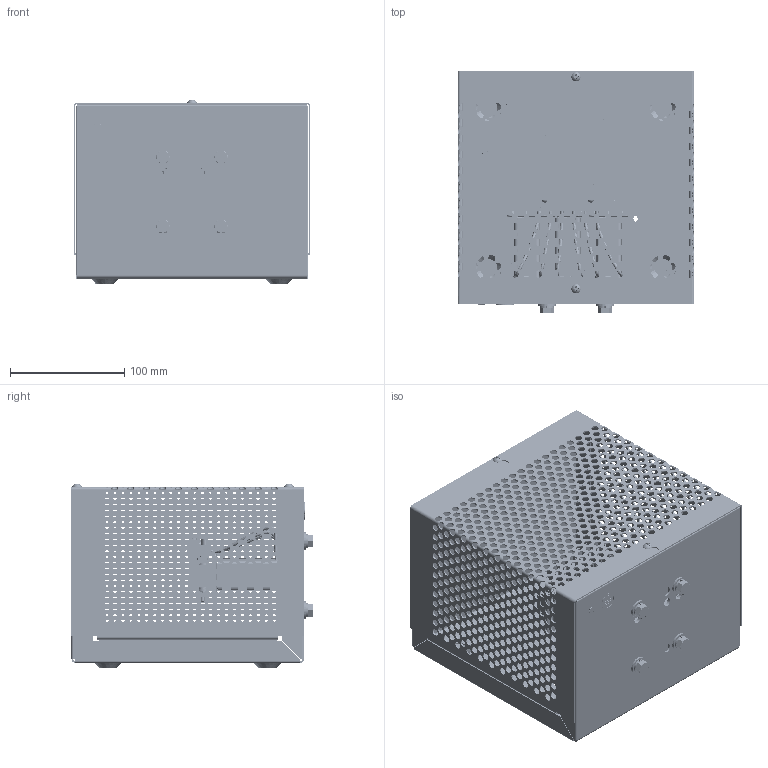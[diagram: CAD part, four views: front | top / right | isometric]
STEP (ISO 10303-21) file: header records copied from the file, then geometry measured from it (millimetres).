
FILE_DESCRIPTION (( 'STEP AP214' ), '1' );
FILE_NAME ('RL-00113.step', '2020-01-23T14:32:14', ( '' ), ( '' ), 'SwSTEP 2.0', 'SolidWorks 2018', '' );
FILE_SCHEMA (( 'AUTOMOTIVE_DESIGN' ));
Length unit declared in the file: inch
Products named in the file (42): LABEL-019; Cable^NTL-ACR-14_RL-00103; SPLIT_WASHER_WASHER-7; KEPS_NUT_NUT-16; 80062-020; FLAT_WASHER_WASHER-4; WASHER-2; PANEL-050_Default<As Machined>; EI625-M5126-3P E_EI625-M5126-3P E .625; TVAR-020_PAPER-162; MTE hex bolt_SCREW-150; BOBBIN-012; FLAT_WASHER_WASHER-6; FLAT_WASHER_WASHER-10; 3812-001_PRODUCT LABEL; RL-00113; CAB-8_RL-00113; FLAT_WASHER_WASHER-3; TVAR-010_PAPER-200; SPLIT_WASHER_WASHER-34; BRACKET-098; #6-32_RHMS_SCREW-105; flush stud_pmi_PEM FH-032-10 ZI; LABEL-020; 70062-003; TVAR-005_PAPER-201; SCREW-142_SCREW-142; EI625-M5126-3P I_EI625-M5126-3P I .625; COIL-0620061; NTL-ACR-14^RL-00103; SPLIT_WASHER_WASHER-1; 3814-001_PRODUCT LABEL; PANEL-050; 36-822-049; PANEL-051; #6-32_HHCS_SCREW-3; 70062-001; #6-32_HHCS_SCREW-6; HEX_NUT_NUT-5; RL-00103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
Assembly tree (79 placements, depth 4):
  RL-00113
    RL-00103
      EI625-M5126-3P E_EI625-M5126-3P E .625
      EI625-M5126-3P I_EI625-M5126-3P I .625
      80062-020  x2
      WASHER-2  x8
      FLAT_WASHER_WASHER-3  x8
      FLAT_WASHER_WASHER-4  x4
      70062-001
      70062-003
      #6-32_HHCS_SCREW-3  x2
      #6-32_HHCS_SCREW-6  x2
      KEPS_NUT_NUT-16  x4
      36-822-049
      3812-001_PRODUCT LABEL
      LABEL-025_DATE CODE
      LABEL-019
      #6-32_RHMS_SCREW-105  x2
      SPLIT_WASHER_WASHER-1  x2
      TVAR-020_PAPER-162
      TVAR-010_PAPER-200
      TVAR-005_PAPER-201
      NTL-ACR-14^RL-00103
        Cable^NTL-ACR-14_RL-00103
      COIL-0620061  x3
        BOBBIN-012
        COIL-0620061
    CAB-8_RL-00113
      PANEL-050
        PANEL-050_Default<As Machined>
        flush stud_pmi_PEM FH-032-10 ZI
      PANEL-051
      LABEL-020
      MTE hex bolt_SCREW-150  x4
      FLAT_WASHER_WASHER-6  x4
      SPLIT_WASHER_WASHER-7  x4
      FLAT_WASHER_WASHER-10
      SPLIT_WASHER_WASHER-34
      HEX_NUT_NUT-5
      SCREW-142_SCREW-142  x2
    3814-001_PRODUCT LABEL
    BRACKET-098  x2
Bounding box: 207.04 x 211.66 x 160.96 mm (x, y, z)
Volume: 287886 mm3; surface area: 683284.1 mm2
Topology: 89 solids, 105 shells, 6010 faces, 16009 edges, 10197 vertices
Faces by surface type: cylinder 3204, plane 1937, bspline 396, torus 304, cone 149, sphere 20
Entity records: 175053 total; most frequent: CARTESIAN_POINT 52728, DIRECTION 24086, ORIENTED_EDGE 23880, EDGE_CURVE 11944, AXIS2_PLACEMENT_3D 9274, VERTEX_POINT 7708, EDGE_LOOP 6460, VECTOR 5538
